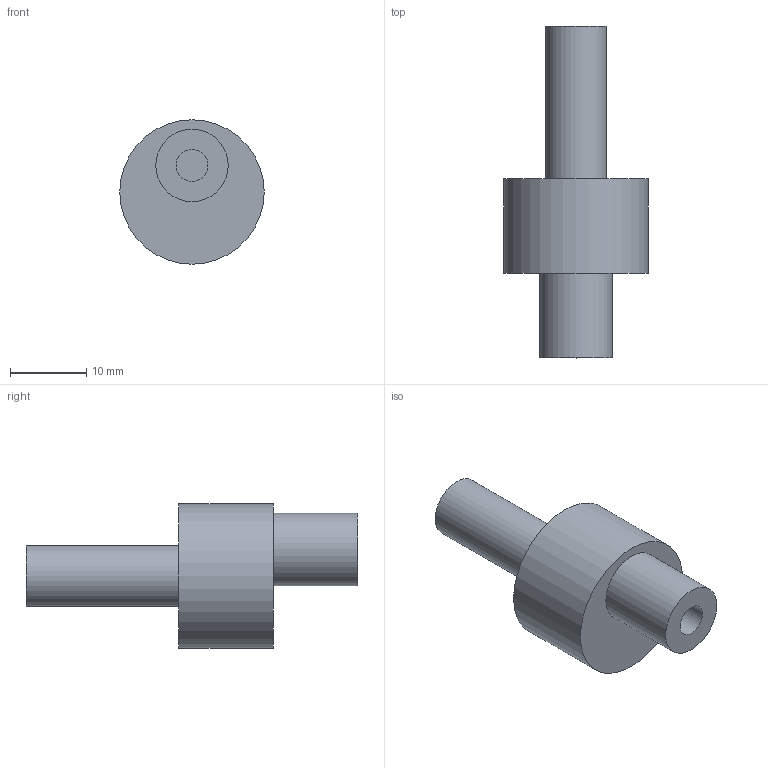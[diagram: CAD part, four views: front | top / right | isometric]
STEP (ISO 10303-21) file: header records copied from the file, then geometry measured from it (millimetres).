
FILE_DESCRIPTION(('Open CASCADE Model'),'2;1');
FILE_NAME('Open CASCADE Shape Model','2026-10-18T22:58:06',('Author'),( 'Open CASCADE'),'Open CASCADE STEP processor 7.9','Open CASCADE 7.9' ,'Unknown');
FILE_SCHEMA(('AUTOMOTIVE_DESIGN { 1 0 10303 214 1 1 1 1 }'));
Length unit declared in the file: millimetre
Products named in the file (1): Open CASCADE STEP translator 7.9 7
Bounding box: 19 x 43.66 x 19 mm (x, y, z)
Volume: 5209.9 mm3; surface area: 2261 mm2
Topology: 1 solids, 1 shells, 9 faces, 12 edges, 8 vertices
Faces by surface type: plane 5, cylinder 4
Full cylindrical faces by diameter (mm): 4.2 x1, 8 x1, 9.525 x1, 19 x1
Entity records: 360 total; most frequent: DIRECTION 64, CARTESIAN_POINT 54, ORIENTED_EDGE 24, PCURVE 24, DEFINITIONAL_REPRESENTATION 24, LINE 20, VECTOR 20, AXIS2_PLACEMENT_3D 18
